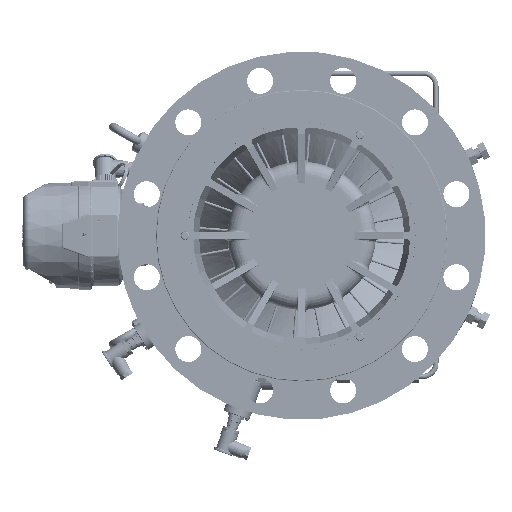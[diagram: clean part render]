
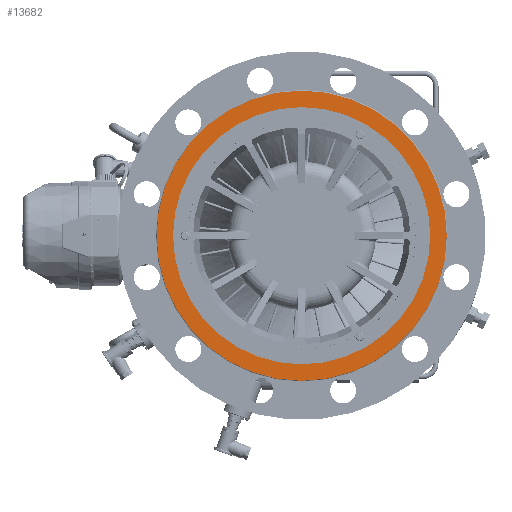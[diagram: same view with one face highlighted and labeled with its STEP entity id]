
A CAD part, left-side view. The second image highlights one B-rep face of the part: STEP entity #13682.
In plain terms, the highlighted planar face has unit normal (-1, 0, 0).
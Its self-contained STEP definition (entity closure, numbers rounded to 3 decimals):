
#12919=CARTESIAN_POINT('',(-15.5,0.,0.));
#12920=DIRECTION('',(1.,0.,0.));
#12921=DIRECTION('',(0.,1.,0.));
#12922=AXIS2_PLACEMENT_3D('',#12919,#12920,#12921);
#12924=CARTESIAN_POINT('',(-15.5,0.,0.));
#12925=DIRECTION('',(-1.,0.,0.));
#12926=DIRECTION('',(0.,1.,0.));
#12927=AXIS2_PLACEMENT_3D('',#12924,#12925,#12926);
#12929=CARTESIAN_POINT('',(-15.5,0.,0.));
#12930=DIRECTION('',(1.,0.,0.));
#12931=DIRECTION('',(0.,1.,0.));
#12932=AXIS2_PLACEMENT_3D('',#12929,#12930,#12931);
#12939=CARTESIAN_POINT('',(-15.5,0.,0.));
#12940=DIRECTION('',(1.,0.,0.));
#12941=DIRECTION('',(0.,-1.,0.));
#12942=AXIS2_PLACEMENT_3D('',#12939,#12940,#12941);
#13124=CARTESIAN_POINT('',(-15.5,167.5,0.));
#13126=VERTEX_POINT('',#13124);
#13128=CARTESIAN_POINT('',(-15.5,-167.5,0.));
#13130=VERTEX_POINT('',#13128);
#13131=CARTESIAN_POINT('',(-15.5,148.47,0.));
#13132=CARTESIAN_POINT('',(-15.5,-148.47,0.));
#13133=VERTEX_POINT('',#13131);
#13134=VERTEX_POINT('',#13132);
#13667=CARTESIAN_POINT('',(-15.5,0.,0.));
#13668=DIRECTION('',(-1.,0.,0.));
#13669=DIRECTION('',(0.,-1.,0.));
#13670=AXIS2_PLACEMENT_3D('',#13667,#13668,#13669);
#13671=PLANE('1107296346',#13670);
#13672=ORIENTED_EDGE('1107296404',*,*,#13662,.T.);
#13673=ORIENTED_EDGE('1107296380',*,*,#13646,.F.);
#13674=EDGE_LOOP('1107296346',(#13672,#13673));
#13675=FACE_OUTER_BOUND('1107296346',#13674,.F.);
#13677=ORIENTED_EDGE('1107296407',*,*,#13676,.F.);
#13679=ORIENTED_EDGE('1107296408',*,*,#13678,.F.);
#13680=EDGE_LOOP('1107296346',(#13677,#13679));
#13681=FACE_BOUND('1107296346',#13680,.F.);
#12923=CIRCLE('1107296404',#12922,167.5);
#12928=CIRCLE('1107296380',#12927,167.5);
#12933=CIRCLE('1107296407',#12932,148.47);
#12943=CIRCLE('1107296408',#12942,148.47);
#13646=EDGE_CURVE('1107296380',#13126,#13130,#12928,.T.);
#13662=EDGE_CURVE('1107296404',#13126,#13130,#12923,.T.);
#13676=EDGE_CURVE('1107296407',#13133,#13134,#12933,.T.);
#13678=EDGE_CURVE('1107296408',#13134,#13133,#12943,.T.);
#13682=ADVANCED_FACE('1107296346',(#13675,#13681),#13671,.T.);
